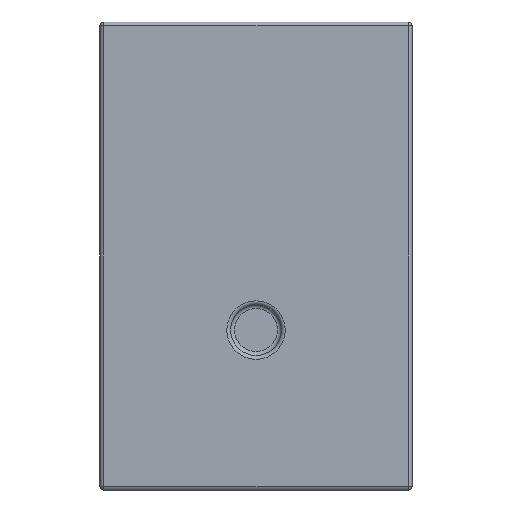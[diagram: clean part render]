
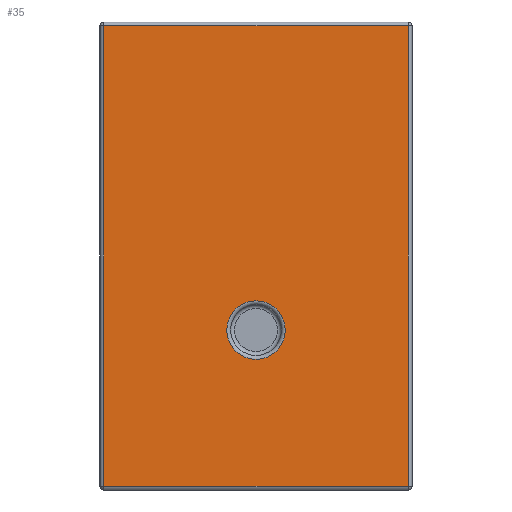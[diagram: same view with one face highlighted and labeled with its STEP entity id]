
A CAD part, left-side view. The second image highlights one B-rep face of the part: STEP entity #35.
In plain terms, the highlighted planar face has unit normal (-1, 0, 0).
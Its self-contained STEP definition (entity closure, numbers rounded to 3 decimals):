
#35 = ADVANCED_FACE('',(#36,#155),#50,.F.);
#36 = FACE_BOUND('',#37,.F.);
#37 = EDGE_LOOP('',(#38,#73,#101,#129));
#38 = ORIENTED_EDGE('',*,*,#39,.F.);
#39 = EDGE_CURVE('',#40,#42,#44,.T.);
#40 = VERTEX_POINT('',#41);
#41 = CARTESIAN_POINT('',(-30.,-19.5,0.5));
#42 = VERTEX_POINT('',#43);
#43 = CARTESIAN_POINT('',(-30.,-19.5,59.5));
#44 = SURFACE_CURVE('',#45,(#49,#61),.PCURVE_S1.);
#45 = LINE('',#46,#47);
#46 = CARTESIAN_POINT('',(-30.,-19.5,0.));
#47 = VECTOR('',#48,1.);
#48 = DIRECTION('',(0.,0.,1.));
#49 = PCURVE('',#50,#55);
#50 = PLANE('',#51);
#51 = AXIS2_PLACEMENT_3D('',#52,#53,#54);
#52 = CARTESIAN_POINT('',(-30.,-20.,0.));
#53 = DIRECTION('',(1.,0.,0.));
#54 = DIRECTION('',(0.,0.,1.));
#55 = DEFINITIONAL_REPRESENTATION('',(#56),#60);
#56 = LINE('',#57,#58);
#57 = CARTESIAN_POINT('',(0.,-0.5));
#58 = VECTOR('',#59,1.);
#59 = DIRECTION('',(1.,0.));
#60 = ( GEOMETRIC_REPRESENTATION_CONTEXT(2) 
PARAMETRIC_REPRESENTATION_CONTEXT() REPRESENTATION_CONTEXT('2D SPACE',''
  ) );
#61 = PCURVE('',#62,#67);
#62 = CYLINDRICAL_SURFACE('',#63,0.5);
#63 = AXIS2_PLACEMENT_3D('',#64,#65,#66);
#64 = CARTESIAN_POINT('',(-29.5,-19.5,0.));
#65 = DIRECTION('',(0.,0.,1.));
#66 = DIRECTION('',(-1.,-0.,0.));
#67 = DEFINITIONAL_REPRESENTATION('',(#68),#72);
#68 = LINE('',#69,#70);
#69 = CARTESIAN_POINT('',(0.,0.));
#70 = VECTOR('',#71,1.);
#71 = DIRECTION('',(0.,1.));
#72 = ( GEOMETRIC_REPRESENTATION_CONTEXT(2) 
PARAMETRIC_REPRESENTATION_CONTEXT() REPRESENTATION_CONTEXT('2D SPACE',''
  ) );
#73 = ORIENTED_EDGE('',*,*,#74,.T.);
#74 = EDGE_CURVE('',#40,#75,#77,.T.);
#75 = VERTEX_POINT('',#76);
#76 = CARTESIAN_POINT('',(-30.,19.5,0.5));
#77 = SURFACE_CURVE('',#78,(#82,#89),.PCURVE_S1.);
#78 = LINE('',#79,#80);
#79 = CARTESIAN_POINT('',(-30.,-20.,0.5));
#80 = VECTOR('',#81,1.);
#81 = DIRECTION('',(0.,1.,0.));
#82 = PCURVE('',#50,#83);
#83 = DEFINITIONAL_REPRESENTATION('',(#84),#88);
#84 = LINE('',#85,#86);
#85 = CARTESIAN_POINT('',(0.5,0.));
#86 = VECTOR('',#87,1.);
#87 = DIRECTION('',(0.,-1.));
#88 = ( GEOMETRIC_REPRESENTATION_CONTEXT(2) 
PARAMETRIC_REPRESENTATION_CONTEXT() REPRESENTATION_CONTEXT('2D SPACE',''
  ) );
#89 = PCURVE('',#90,#95);
#90 = CYLINDRICAL_SURFACE('',#91,0.5);
#91 = AXIS2_PLACEMENT_3D('',#92,#93,#94);
#92 = CARTESIAN_POINT('',(-29.5,-20.,0.5));
#93 = DIRECTION('',(0.,1.,0.));
#94 = DIRECTION('',(-1.,0.,0.));
#95 = DEFINITIONAL_REPRESENTATION('',(#96),#100);
#96 = LINE('',#97,#98);
#97 = CARTESIAN_POINT('',(-0.,0.));
#98 = VECTOR('',#99,1.);
#99 = DIRECTION('',(-0.,1.));
#100 = ( GEOMETRIC_REPRESENTATION_CONTEXT(2) 
PARAMETRIC_REPRESENTATION_CONTEXT() REPRESENTATION_CONTEXT('2D SPACE',''
  ) );
#101 = ORIENTED_EDGE('',*,*,#102,.F.);
#102 = EDGE_CURVE('',#103,#75,#105,.T.);
#103 = VERTEX_POINT('',#104);
#104 = CARTESIAN_POINT('',(-30.,19.5,59.5));
#105 = SURFACE_CURVE('',#106,(#110,#117),.PCURVE_S1.);
#106 = LINE('',#107,#108);
#107 = CARTESIAN_POINT('',(-30.,19.5,60.));
#108 = VECTOR('',#109,1.);
#109 = DIRECTION('',(0.,0.,-1.));
#110 = PCURVE('',#50,#111);
#111 = DEFINITIONAL_REPRESENTATION('',(#112),#116);
#112 = LINE('',#113,#114);
#113 = CARTESIAN_POINT('',(60.,-39.5));
#114 = VECTOR('',#115,1.);
#115 = DIRECTION('',(-1.,0.));
#116 = ( GEOMETRIC_REPRESENTATION_CONTEXT(2) 
PARAMETRIC_REPRESENTATION_CONTEXT() REPRESENTATION_CONTEXT('2D SPACE',''
  ) );
#117 = PCURVE('',#118,#123);
#118 = CYLINDRICAL_SURFACE('',#119,0.5);
#119 = AXIS2_PLACEMENT_3D('',#120,#121,#122);
#120 = CARTESIAN_POINT('',(-29.5,19.5,60.));
#121 = DIRECTION('',(0.,0.,-1.));
#122 = DIRECTION('',(-1.,-0.,-0.));
#123 = DEFINITIONAL_REPRESENTATION('',(#124),#128);
#124 = LINE('',#125,#126);
#125 = CARTESIAN_POINT('',(0.,0.));
#126 = VECTOR('',#127,1.);
#127 = DIRECTION('',(0.,1.));
#128 = ( GEOMETRIC_REPRESENTATION_CONTEXT(2) 
PARAMETRIC_REPRESENTATION_CONTEXT() REPRESENTATION_CONTEXT('2D SPACE',''
  ) );
#129 = ORIENTED_EDGE('',*,*,#130,.F.);
#130 = EDGE_CURVE('',#42,#103,#131,.T.);
#131 = SURFACE_CURVE('',#132,(#136,#143),.PCURVE_S1.);
#132 = LINE('',#133,#134);
#133 = CARTESIAN_POINT('',(-30.,-20.,59.5));
#134 = VECTOR('',#135,1.);
#135 = DIRECTION('',(0.,1.,0.));
#136 = PCURVE('',#50,#137);
#137 = DEFINITIONAL_REPRESENTATION('',(#138),#142);
#138 = LINE('',#139,#140);
#139 = CARTESIAN_POINT('',(59.5,0.));
#140 = VECTOR('',#141,1.);
#141 = DIRECTION('',(0.,-1.));
#142 = ( GEOMETRIC_REPRESENTATION_CONTEXT(2) 
PARAMETRIC_REPRESENTATION_CONTEXT() REPRESENTATION_CONTEXT('2D SPACE',''
  ) );
#143 = PCURVE('',#144,#149);
#144 = CYLINDRICAL_SURFACE('',#145,0.5);
#145 = AXIS2_PLACEMENT_3D('',#146,#147,#148);
#146 = CARTESIAN_POINT('',(-29.5,-20.,59.5));
#147 = DIRECTION('',(0.,1.,0.));
#148 = DIRECTION('',(-1.,0.,0.));
#149 = DEFINITIONAL_REPRESENTATION('',(#150),#154);
#150 = LINE('',#151,#152);
#151 = CARTESIAN_POINT('',(0.,0.));
#152 = VECTOR('',#153,1.);
#153 = DIRECTION('',(0.,1.));
#154 = ( GEOMETRIC_REPRESENTATION_CONTEXT(2) 
PARAMETRIC_REPRESENTATION_CONTEXT() REPRESENTATION_CONTEXT('2D SPACE',''
  ) );
#155 = FACE_BOUND('',#156,.F.);
#156 = EDGE_LOOP('',(#157));
#157 = ORIENTED_EDGE('',*,*,#158,.F.);
#158 = EDGE_CURVE('',#159,#159,#161,.T.);
#159 = VERTEX_POINT('',#160);
#160 = CARTESIAN_POINT('',(-30.,3.75,20.5));
#161 = SURFACE_CURVE('',#162,(#167,#174),.PCURVE_S1.);
#162 = CIRCLE('',#163,3.75);
#163 = AXIS2_PLACEMENT_3D('',#164,#165,#166);
#164 = CARTESIAN_POINT('',(-30.,0.,20.5));
#165 = DIRECTION('',(1.,0.,-0.));
#166 = DIRECTION('',(0.,1.,0.));
#167 = PCURVE('',#50,#168);
#168 = DEFINITIONAL_REPRESENTATION('',(#169),#173);
#169 = CIRCLE('',#170,3.75);
#170 = AXIS2_PLACEMENT_2D('',#171,#172);
#171 = CARTESIAN_POINT('',(20.5,-20.));
#172 = DIRECTION('',(0.,-1.));
#173 = ( GEOMETRIC_REPRESENTATION_CONTEXT(2) 
PARAMETRIC_REPRESENTATION_CONTEXT() REPRESENTATION_CONTEXT('2D SPACE',''
  ) );
#174 = PCURVE('',#175,#180);
#175 = TOROIDAL_SURFACE('',#176,3.75,0.5);
#176 = AXIS2_PLACEMENT_3D('',#177,#178,#179);
#177 = CARTESIAN_POINT('',(-29.5,0.,20.5));
#178 = DIRECTION('',(-1.,-0.,0.));
#179 = DIRECTION('',(0.,1.,0.));
#180 = DEFINITIONAL_REPRESENTATION('',(#181),#185);
#181 = LINE('',#182,#183);
#182 = CARTESIAN_POINT('',(-0.,1.571));
#183 = VECTOR('',#184,1.);
#184 = DIRECTION('',(-1.,0.));
#185 = ( GEOMETRIC_REPRESENTATION_CONTEXT(2) 
PARAMETRIC_REPRESENTATION_CONTEXT() REPRESENTATION_CONTEXT('2D SPACE',''
  ) );
